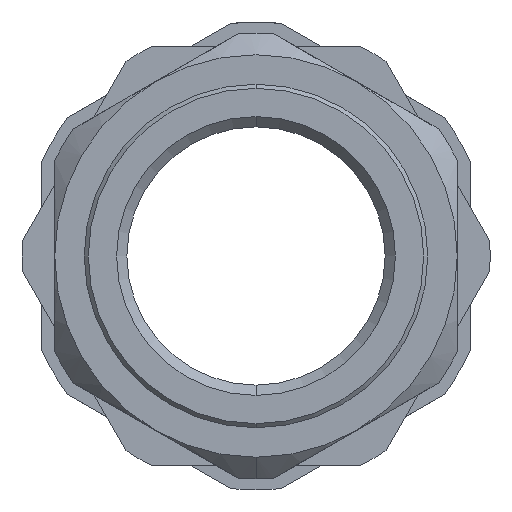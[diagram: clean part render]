
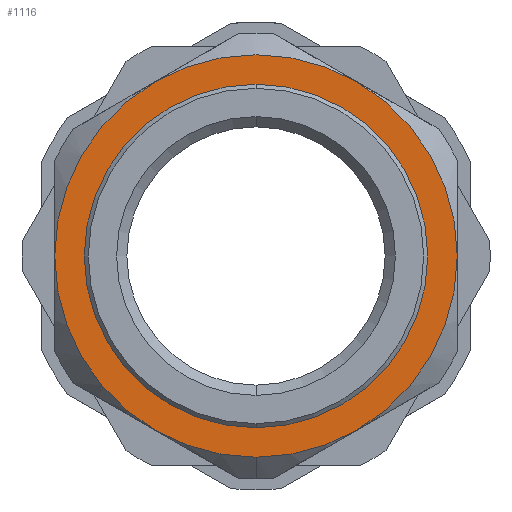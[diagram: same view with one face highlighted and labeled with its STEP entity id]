
A CAD part, front view. The second image highlights one B-rep face of the part: STEP entity #1116.
In plain terms, the highlighted planar face has unit normal (0, -1, 0).
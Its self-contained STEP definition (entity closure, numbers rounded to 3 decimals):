
#31 = AXIS2_PLACEMENT_3D ( 'NONE', #1708, #1709, #1710 ) ;
#43 = FACE_BOUND ( 'NONE', #1663, .T. ) ;
#65 = FACE_OUTER_BOUND ( 'NONE', #1608, .T. ) ;
#101 = AXIS2_PLACEMENT_3D ( 'NONE', #661, #671, #672 ) ;
#110 = AXIS2_PLACEMENT_3D ( 'NONE', #625, #626, #627 ) ;
#112 = AXIS2_PLACEMENT_3D ( 'NONE', #631, #632, #633 ) ;
#113 = AXIS2_PLACEMENT_3D ( 'NONE', #634, #638, #639 ) ;
#213 = AXIS2_PLACEMENT_3D ( 'NONE', #787, #788, #789 ) ;
#219 = AXIS2_PLACEMENT_3D ( 'NONE', #784, #785, #786 ) ;
#221 = AXIS2_PLACEMENT_3D ( 'NONE', #883, #887, #888 ) ;
#239 = AXIS2_PLACEMENT_3D ( 'NONE', #734, #735, #736 ) ;
#258 = AXIS2_PLACEMENT_3D ( 'NONE', #757, #758, #759 ) ;
#298 = CARTESIAN_POINT ( 'NONE',  ( 0., 1., -20.825 ) ) ;
#329 = CARTESIAN_POINT ( 'NONE',  ( -12.2, 1., -21.131 ) ) ;
#330 = CARTESIAN_POINT ( 'NONE',  ( -24.4, 1., 0. ) ) ;
#331 = CARTESIAN_POINT ( 'NONE',  ( 24.4, 1., 0. ) ) ;
#334 = CARTESIAN_POINT ( 'NONE',  ( -12.2, 1., 21.131 ) ) ;
#496 = VERTEX_POINT ( 'NONE', #1669 ) ;
#625 = CARTESIAN_POINT ( 'NONE',  ( 0., 1., 0. ) ) ;
#626 = DIRECTION ( 'NONE',  ( 0., -1., 0. ) ) ;
#627 = DIRECTION ( 'NONE',  ( 0., 0., -1. ) ) ;
#631 = CARTESIAN_POINT ( 'NONE',  ( 0., 1., 0. ) ) ;
#632 = DIRECTION ( 'NONE',  ( 0., -1., 0. ) ) ;
#633 = DIRECTION ( 'NONE',  ( 0., 0., -1. ) ) ;
#634 = CARTESIAN_POINT ( 'NONE',  ( 0., 1., 0. ) ) ;
#638 = DIRECTION ( 'NONE',  ( 0., -1., 0. ) ) ;
#639 = DIRECTION ( 'NONE',  ( 0., 0., -1. ) ) ;
#661 = CARTESIAN_POINT ( 'NONE',  ( 0., 1., 0. ) ) ;
#671 = DIRECTION ( 'NONE',  ( 0., -1., 0. ) ) ;
#672 = DIRECTION ( 'NONE',  ( 0., 0., -1. ) ) ;
#734 = CARTESIAN_POINT ( 'NONE',  ( 0., 1., 0. ) ) ;
#735 = DIRECTION ( 'NONE',  ( 0., -1., 0. ) ) ;
#736 = DIRECTION ( 'NONE',  ( 0., 0., -1. ) ) ;
#757 = CARTESIAN_POINT ( 'NONE',  ( 0., 1., 0. ) ) ;
#758 = DIRECTION ( 'NONE',  ( 0., -1., 0. ) ) ;
#759 = DIRECTION ( 'NONE',  ( 0., 0., -1. ) ) ;
#784 = CARTESIAN_POINT ( 'NONE',  ( 0., 1., 0. ) ) ;
#785 = DIRECTION ( 'NONE',  ( 0., -1., 0. ) ) ;
#786 = DIRECTION ( 'NONE',  ( 0., 0., -1. ) ) ;
#787 = CARTESIAN_POINT ( 'NONE',  ( 0., 1., 0. ) ) ;
#788 = DIRECTION ( 'NONE',  ( 0., -1., 0. ) ) ;
#789 = DIRECTION ( 'NONE',  ( 0., 0., -1. ) ) ;
#883 = CARTESIAN_POINT ( 'NONE',  ( 0., 1., 0. ) ) ;
#887 = DIRECTION ( 'NONE',  ( 0., -1., 0. ) ) ;
#888 = DIRECTION ( 'NONE',  ( 0., 0., -1. ) ) ;
#1060 = CARTESIAN_POINT ( 'NONE',  ( 0., 1., 20.825 ) ) ;
#1097 = CARTESIAN_POINT ( 'NONE',  ( 12.2, 1., 21.131 ) ) ;
#1100 = CARTESIAN_POINT ( 'NONE',  ( 12.2, 1., -21.131 ) ) ;
#1116 = ADVANCED_FACE ( 'NONE', ( #43, #65 ), #1707, .F. ) ;
#1145 = CIRCLE ( 'NONE', #221, 20.825 ) ;
#1248 = EDGE_CURVE ( 'NONE', #2263, #2091, #1412, .T. ) ;
#1250 = EDGE_CURVE ( 'NONE', #1543, #2263, #1410, .T. ) ;
#1252 = EDGE_CURVE ( 'NONE', #1506, #1558, #1409, .T. ) ;
#1263 = EDGE_CURVE ( 'NONE', #2092, #1543, #1404, .T. ) ;
#1280 = EDGE_CURVE ( 'NONE', #496, #1546, #1395, .T. ) ;
#1286 = EDGE_CURVE ( 'NONE', #2091, #2090, #1391, .T. ) ;
#1295 = EDGE_CURVE ( 'NONE', #2090, #496, #1387, .T. ) ;
#1296 = EDGE_CURVE ( 'NONE', #1546, #2092, #1386, .T. ) ;
#1327 = EDGE_CURVE ( 'NONE', #1558, #1506, #1145, .T. ) ;
#1386 = CIRCLE ( 'NONE', #213, 24.4 ) ;
#1387 = CIRCLE ( 'NONE', #219, 24.4 ) ;
#1391 = CIRCLE ( 'NONE', #258, 24.4 ) ;
#1395 = CIRCLE ( 'NONE', #239, 24.4 ) ;
#1404 = CIRCLE ( 'NONE', #101, 24.4 ) ;
#1409 = CIRCLE ( 'NONE', #113, 20.825 ) ;
#1410 = CIRCLE ( 'NONE', #112, 24.4 ) ;
#1412 = CIRCLE ( 'NONE', #110, 24.4 ) ;
#1506 = VERTEX_POINT ( 'NONE', #1060 ) ;
#1543 = VERTEX_POINT ( 'NONE', #1097 ) ;
#1546 = VERTEX_POINT ( 'NONE', #1100 ) ;
#1558 = VERTEX_POINT ( 'NONE', #298 ) ;
#1608 = EDGE_LOOP ( 'NONE', ( #2383, #2476, #2402, #2432, #2489, #2123, #2131 ) ) ;
#1663 = EDGE_LOOP ( 'NONE', ( #2403, #2490 ) ) ;
#1669 = CARTESIAN_POINT ( 'NONE',  ( 0., 1., -24.4 ) ) ;
#1707 = PLANE ( 'NONE',  #31 ) ;
#1708 = CARTESIAN_POINT ( 'NONE',  ( -27., 1., 0. ) ) ;
#1709 = DIRECTION ( 'NONE',  ( 0., 1., 0. ) ) ;
#1710 = DIRECTION ( 'NONE',  ( 0., 0., 1. ) ) ;
#2090 = VERTEX_POINT ( 'NONE', #329 ) ;
#2091 = VERTEX_POINT ( 'NONE', #330 ) ;
#2092 = VERTEX_POINT ( 'NONE', #331 ) ;
#2123 = ORIENTED_EDGE ( 'NONE', *, *, #1280, .T. ) ;
#2131 = ORIENTED_EDGE ( 'NONE', *, *, #1296, .T. ) ;
#2263 = VERTEX_POINT ( 'NONE', #334 ) ;
#2383 = ORIENTED_EDGE ( 'NONE', *, *, #1263, .T. ) ;
#2402 = ORIENTED_EDGE ( 'NONE', *, *, #1248, .T. ) ;
#2403 = ORIENTED_EDGE ( 'NONE', *, *, #1327, .F. ) ;
#2432 = ORIENTED_EDGE ( 'NONE', *, *, #1286, .T. ) ;
#2476 = ORIENTED_EDGE ( 'NONE', *, *, #1250, .T. ) ;
#2489 = ORIENTED_EDGE ( 'NONE', *, *, #1295, .T. ) ;
#2490 = ORIENTED_EDGE ( 'NONE', *, *, #1252, .F. ) ;
